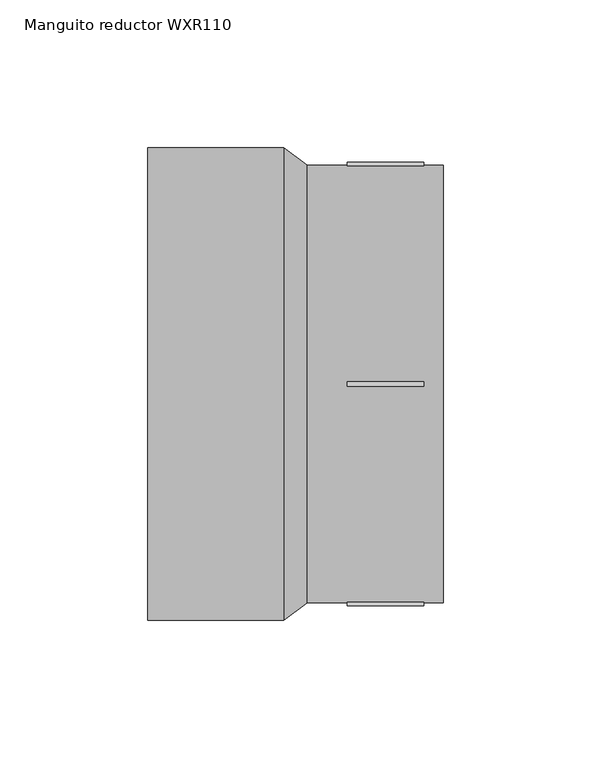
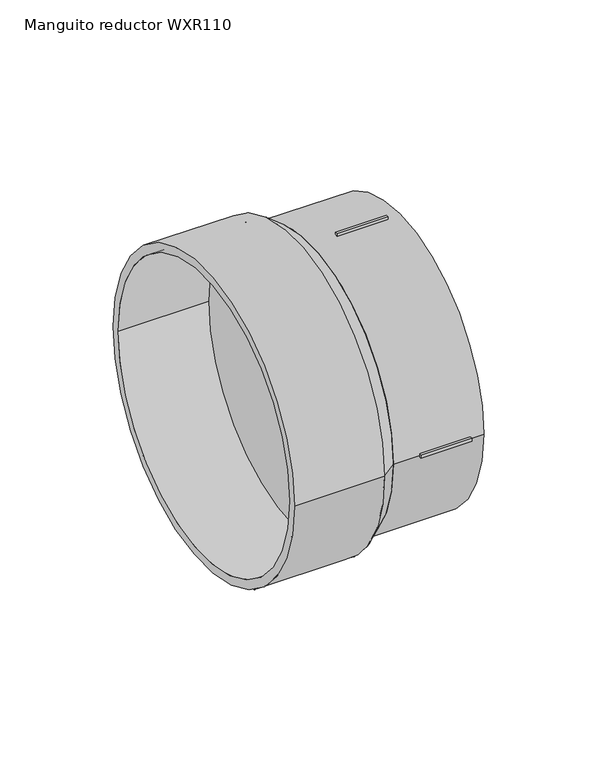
"""IFC4 building model written with IfcOpenShell, lengths in millimetres: pipe fitting geometry, EGB_VASEN_ PPR_Manguito reductor WXR110 : Manguito reductor WXR110."""

from ifc_helpers import new_model, si_unit, point, frame, origin, origin_2d, place, context, project, spatial, polyline, circle_curve, trimmed, segment, composite_curve, outline, extrude, source, transform, mapped, element, save
from ifc_brep_helpers import plane_surface, revolved_surface, advanced_brep


def manguito_reductor_wxr110_f415d87b(model_context):
    return source(origin(), model_context, "Body", "SolidModel", [
        extrude(outline(polyline([(17.5, -0.75), (17.5, 0.75), (43.5, 0.75), (43.5, -0.75), (17.5, -0.75)])), frame((0.0, 0.0, 73.0), z_axis=(0.0, 0.0, 1.0), x_axis=(1.0, 0.0, 0.0)), (0.0, 0.0, 1.0), 2.0),
        extrude(outline(polyline([(17.5, -0.75), (17.5, 0.75), (43.5, 0.75), (43.5, -0.75), (17.5, -0.75)])), frame((0.0, 0.0, -75.0), z_axis=(0.0, 0.0, 1.0), x_axis=(1.0, 0.0, 0.0)), (0.0, 0.0, 1.0), 2.0),
        extrude(outline(polyline([(17.5, 73.0), (17.5, 75.0), (43.5, 75.0), (43.5, 73.0), (17.5, 73.0)])), frame((0.0, 0.0, -0.75), z_axis=(0.0, 0.0, 1.0), x_axis=(1.0, 0.0, 0.0)), (0.0, 0.0, 1.0), 1.5),
        extrude(outline(polyline([(17.5, -75.0), (17.5, -73.0), (43.5, -73.0), (43.5, -75.0), (17.5, -75.0)])), frame((0.0, 0.0, -0.75), z_axis=(0.0, 0.0, 1.0), x_axis=(1.0, 0.0, 0.0)), (0.0, 0.0, 1.0), 1.5),
        extrude(outline(composite_curve([segment(trimmed(circle_curve(origin_2d(), 74.0), [point((-74.0, 0.0))], [point((74.0, 0.0))], False, "CARTESIAN"), True, "CONTINUOUS"), segment(trimmed(circle_curve(origin_2d(), 74.0), [point((74.0, 0.0))], [point((-74.0, 0.0))], False, "CARTESIAN"), True, "CONTINUOUS")], self_intersect=False), holes=[composite_curve([segment(trimmed(circle_curve(origin_2d(), 55.0), [point((-55.0, 0.0))], [point((55.0, 0.0))], True, "CARTESIAN"), True, "CONTINUOUS"), segment(trimmed(circle_curve(origin_2d(), 55.0), [point((55.0, 0.0))], [point((-55.0, 0.0))], True, "CARTESIAN"), True, "CONTINUOUS")], self_intersect=False)]), frame((4.0, 0.0, 0.0), z_axis=(1.0, 0.0, 0.0), x_axis=(0.0, 1.0, 0.0)), (0.0, 0.0, 1.0), 46.0),
        extrude(outline(composite_curve([segment(trimmed(circle_curve(origin_2d(), 80.0), [point((-80.0, 0.0))], [point((80.0, 0.0))], False, "CARTESIAN"), True, "CONTINUOUS"), segment(trimmed(circle_curve(origin_2d(), 80.0), [point((80.0, 0.0))], [point((-80.0, 0.0))], False, "CARTESIAN"), True, "CONTINUOUS")], self_intersect=False), holes=[composite_curve([segment(trimmed(circle_curve(origin_2d(), 75.5), [point((-75.5, 0.0))], [point((75.5, 0.0))], True, "CARTESIAN"), True, "CONTINUOUS"), segment(trimmed(circle_curve(origin_2d(), 75.5), [point((75.5, 0.0))], [point((-75.5, 0.0))], True, "CARTESIAN"), True, "CONTINUOUS")], self_intersect=False)]), frame((-50.0, 0.0, 0.0), z_axis=(1.0, 0.0, 0.0), x_axis=(0.0, 1.0, 0.0)), (0.0, 0.0, 1.0), 46.0),
        advanced_brep(
        [(4.0, -74.0, 0.0), (4.0, 74.0, 0.0), (-4.0, -80.0, 0.0), (-4.0, 80.0, 0.0)],
        [
            (0, 1, circle_curve(frame((4.0, 0.0, 0.0), z_axis=(1.0, 0.0, 0.0), x_axis=(0.0, -1.0, 0.0)), 74.0)),
            (1, 0, circle_curve(frame((4.0, 0.0, 0.0), z_axis=(1.0, 0.0, 0.0), x_axis=(0.0, 1.0, 0.0)), 74.0)),
            (2, 3, circle_curve(frame((-4.0, 0.0, 0.0), z_axis=(-1.0, 0.0, 0.0), x_axis=(0.0, 1.0, 0.0)), 80.0)),
            (3, 2, circle_curve(frame((-4.0, 0.0, 0.0), z_axis=(-1.0, 0.0, 0.0), x_axis=(0.0, -1.0, 0.0)), 80.0)),
            (3, 1),
            (0, 2),
        ],
        [
            plane_surface(frame((4.0, 0.0, 0.0), z_axis=(1.0, 0.0, 0.0), x_axis=(0.0, 0.0, -1.0))),
            plane_surface(frame((-4.0, 0.0, 0.0), z_axis=(-1.0, 0.0, 0.0), x_axis=(0.0, 0.0, -1.0))),
            revolved_surface(polyline([(4.0, -74.00000000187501, 0.0), (-4.0, -80.0, 0.0)]), (102.6666667, 0.0, 0.0), (-1.0, 0.0, 0.0)),
            revolved_surface(polyline([(4.0, 74.00000000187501, 0.0), (-4.0, 80.0, 0.0)]), (102.6666667, 0.0, 0.0), (-1.0, 0.0, 0.0)),
        ],
        [
            (0, [[1, 2]]),
            (1, [[3, 4]]),
            (2, [[-4, 5, -1, 6]]),
            (3, [[-3, -6, -2, -5]]),
        ],
    ),
    ])


if __name__ == "__main__":
    model = new_model("IFC4")
    model_context = context("Model", 3, world=origin())
    ifc_project = project(units=[si_unit("LENGTHUNIT", "METRE", prefix="MILLI")], contexts=[model_context])
    site = spatial("IfcSite", under=ifc_project)
    building = spatial("IfcBuilding", under=site)
    placement = place(None, origin())
    manguito_reductor_wxr110_shape = manguito_reductor_wxr110_f415d87b(model_context)
    element("IfcPipeFitting", 1, ObjectType="EGB_VASEN_ PPR_Manguito reductor WXR110 : Manguito reductor WXR110", at=placement, inside=building, context=model_context, shape_type="MappedRepresentation", body=[
        mapped(manguito_reductor_wxr110_shape, transform((0.0, 0.0, 0.0), x_axis=(1.0, 0.0, 0.0), y_axis=(0.0, 1.0, 0.0), z_axis=(0.0, 0.0, 1.0))),
    ])
    save(model, "model.ifc")
